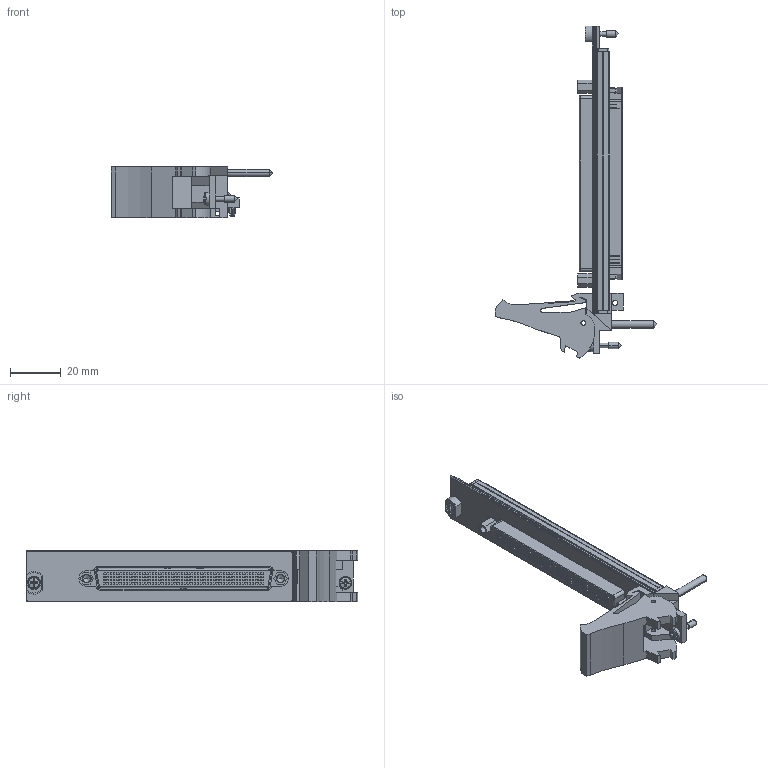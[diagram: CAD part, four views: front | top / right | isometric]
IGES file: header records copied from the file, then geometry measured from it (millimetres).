
Start section:  PTC IGES file: cu_pxie-2569.igs
Global section: file name: cu_pxie-2569.igs; native system: Pro/ENGINEER by Parametric Technology Corporation; preprocessor: 2006080; author: jjorden; organization: Unknown; date: 091106.104158; units: inch
Bounding box: 63.53 x 130.5 x 20.31 mm (x, y, z)
Surface area: 23344.3 mm2 (no closed solid volume)
Topology: 0 solids, 0 shells, 2306 faces, 12224 edges, 12216 vertices
Faces by surface type: bspline 2144, revolution 162
